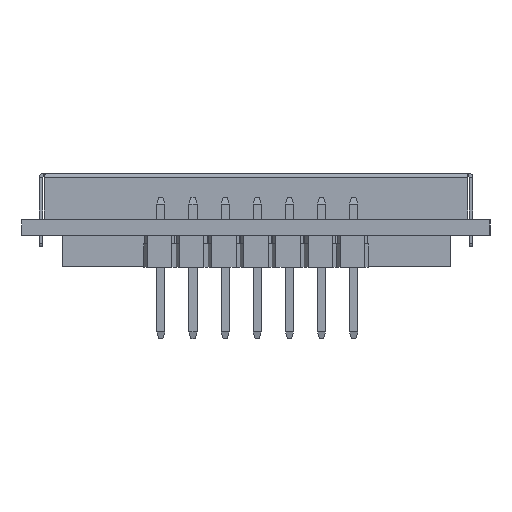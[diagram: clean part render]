
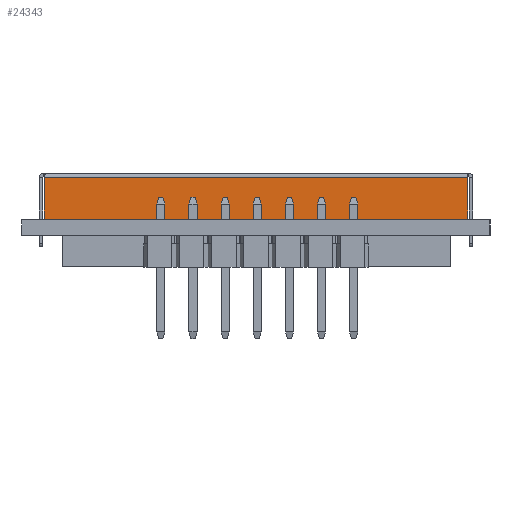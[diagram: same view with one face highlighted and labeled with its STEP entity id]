
A CAD part, left-side view. The second image highlights one B-rep face of the part: STEP entity #24343.
In plain terms, the highlighted planar face has unit normal (-1, 0, 0).
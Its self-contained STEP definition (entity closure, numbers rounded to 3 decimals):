
#19330 = CYLINDRICAL_SURFACE('',#19331,0.33);
#19331 = AXIS2_PLACEMENT_3D('',#19332,#19333,#19334);
#19332 = CARTESIAN_POINT('',(-24.82,16.75,-0.33));
#19333 = DIRECTION('',(0.,1.,0.));
#19334 = DIRECTION('',(-1.,0.,0.));
#23777 = VERTEX_POINT('',#23778);
#23778 = CARTESIAN_POINT('',(-25.15,-16.75,-0.33));
#23792 = PLANE('',#23793);
#23793 = AXIS2_PLACEMENT_3D('',#23794,#23795,#23796);
#23794 = CARTESIAN_POINT('',(-25.15,-16.75,-0.3));
#23795 = DIRECTION('',(0.,1.,0.));
#23796 = DIRECTION('',(0.,0.,1.));
#23898 = VERTEX_POINT('',#23899);
#23899 = CARTESIAN_POINT('',(-25.15,16.75,-0.33));
#24005 = PLANE('',#24006);
#24006 = AXIS2_PLACEMENT_3D('',#24007,#24008,#24009);
#24007 = CARTESIAN_POINT('',(-25.15,16.75,-3.8));
#24008 = DIRECTION('',(0.,-1.,0.));
#24009 = DIRECTION('',(0.,0.,-1.));
#24094 = EDGE_CURVE('',#23898,#23777,#24095,.T.);
#24095 = SURFACE_CURVE('',#24096,(#24100,#24129),.PCURVE_S1.);
#24096 = LINE('',#24097,#24098);
#24097 = CARTESIAN_POINT('',(-25.15,0.,-0.33));
#24098 = VECTOR('',#24099,1.);
#24099 = DIRECTION('',(0.,-1.,0.));
#24100 = PCURVE('',#19330,#24101);
#24101 = DEFINITIONAL_REPRESENTATION('',(#24102),#24128);
#24102 = B_SPLINE_CURVE_WITH_KNOTS('',3,(#24103,#24104,#24105,#24106,
    #24107,#24108,#24109,#24110,#24111,#24112,#24113,#24114,#24115,
    #24116,#24117,#24118,#24119,#24120,#24121,#24122,#24123,#24124,
    #24125,#24126,#24127),.UNSPECIFIED.,.F.,.F.,(4,1,1,1,1,1,1,1,1,1,1,1
    ,1,1,1,1,1,1,1,1,1,1,4),(-16.75,-15.227,-13.705,
    -12.182,-10.659,-9.136,-7.614,
    -6.091,-4.568,-3.045,-1.523,
    0.,1.523,3.045,4.568,
    6.091,7.614,9.136,10.659,
    12.182,13.705,15.227,16.75),
  .UNSPECIFIED.);
#24103 = CARTESIAN_POINT('',(0.,0.));
#24104 = CARTESIAN_POINT('',(0.,-0.508));
#24105 = CARTESIAN_POINT('',(0.,-1.523));
#24106 = CARTESIAN_POINT('',(0.,-3.045));
#24107 = CARTESIAN_POINT('',(0.,-4.568));
#24108 = CARTESIAN_POINT('',(0.,-6.091));
#24109 = CARTESIAN_POINT('',(0.,-7.614));
#24110 = CARTESIAN_POINT('',(0.,-9.136));
#24111 = CARTESIAN_POINT('',(0.,-10.659));
#24112 = CARTESIAN_POINT('',(0.,-12.182));
#24113 = CARTESIAN_POINT('',(0.,-13.705));
#24114 = CARTESIAN_POINT('',(0.,-15.227));
#24115 = CARTESIAN_POINT('',(0.,-16.75));
#24116 = CARTESIAN_POINT('',(0.,-18.273));
#24117 = CARTESIAN_POINT('',(0.,-19.795));
#24118 = CARTESIAN_POINT('',(0.,-21.318));
#24119 = CARTESIAN_POINT('',(0.,-22.841));
#24120 = CARTESIAN_POINT('',(0.,-24.364));
#24121 = CARTESIAN_POINT('',(0.,-25.886));
#24122 = CARTESIAN_POINT('',(0.,-27.409));
#24123 = CARTESIAN_POINT('',(0.,-28.932));
#24124 = CARTESIAN_POINT('',(0.,-30.455));
#24125 = CARTESIAN_POINT('',(0.,-31.977));
#24126 = CARTESIAN_POINT('',(0.,-32.992));
#24127 = CARTESIAN_POINT('',(0.,-33.5));
#24128 = ( GEOMETRIC_REPRESENTATION_CONTEXT(2) 
PARAMETRIC_REPRESENTATION_CONTEXT() REPRESENTATION_CONTEXT('2D SPACE',''
  ) );
#24129 = PCURVE('',#24130,#24135);
#24130 = PLANE('',#24131);
#24131 = AXIS2_PLACEMENT_3D('',#24132,#24133,#24134);
#24132 = CARTESIAN_POINT('',(-25.15,0.,0.));
#24133 = DIRECTION('',(1.,0.,0.));
#24134 = DIRECTION('',(0.,0.,-1.));
#24135 = DEFINITIONAL_REPRESENTATION('',(#24136),#24140);
#24136 = LINE('',#24137,#24138);
#24137 = CARTESIAN_POINT('',(0.33,0.));
#24138 = VECTOR('',#24139,1.);
#24139 = DIRECTION('',(0.,-1.));
#24140 = ( GEOMETRIC_REPRESENTATION_CONTEXT(2) 
PARAMETRIC_REPRESENTATION_CONTEXT() REPRESENTATION_CONTEXT('2D SPACE',''
  ) );
#24225 = VERTEX_POINT('',#24226);
#24226 = CARTESIAN_POINT('',(-25.15,16.75,-3.8));
#24240 = PLANE('',#24241);
#24241 = AXIS2_PLACEMENT_3D('',#24242,#24243,#24244);
#24242 = CARTESIAN_POINT('',(-25.15,-16.75,-3.8));
#24243 = DIRECTION('',(0.,0.,1.));
#24244 = DIRECTION('',(1.,0.,0.));
#24252 = EDGE_CURVE('',#23898,#24225,#24253,.T.);
#24253 = SURFACE_CURVE('',#24254,(#24258,#24265),.PCURVE_S1.);
#24254 = LINE('',#24255,#24256);
#24255 = CARTESIAN_POINT('',(-25.15,16.75,-3.8));
#24256 = VECTOR('',#24257,1.);
#24257 = DIRECTION('',(0.,0.,-1.));
#24258 = PCURVE('',#24005,#24259);
#24259 = DEFINITIONAL_REPRESENTATION('',(#24260),#24264);
#24260 = LINE('',#24261,#24262);
#24261 = CARTESIAN_POINT('',(0.,0.));
#24262 = VECTOR('',#24263,1.);
#24263 = DIRECTION('',(1.,0.));
#24264 = ( GEOMETRIC_REPRESENTATION_CONTEXT(2) 
PARAMETRIC_REPRESENTATION_CONTEXT() REPRESENTATION_CONTEXT('2D SPACE',''
  ) );
#24265 = PCURVE('',#24130,#24266);
#24266 = DEFINITIONAL_REPRESENTATION('',(#24267),#24271);
#24267 = LINE('',#24268,#24269);
#24268 = CARTESIAN_POINT('',(3.8,16.75));
#24269 = VECTOR('',#24270,1.);
#24270 = DIRECTION('',(1.,0.));
#24271 = ( GEOMETRIC_REPRESENTATION_CONTEXT(2) 
PARAMETRIC_REPRESENTATION_CONTEXT() REPRESENTATION_CONTEXT('2D SPACE',''
  ) );
#24277 = EDGE_CURVE('',#24278,#23777,#24280,.T.);
#24278 = VERTEX_POINT('',#24279);
#24279 = CARTESIAN_POINT('',(-25.15,-16.75,-3.8));
#24280 = SURFACE_CURVE('',#24281,(#24285,#24292),.PCURVE_S1.);
#24281 = LINE('',#24282,#24283);
#24282 = CARTESIAN_POINT('',(-25.15,-16.75,-0.3));
#24283 = VECTOR('',#24284,1.);
#24284 = DIRECTION('',(0.,0.,1.));
#24285 = PCURVE('',#23792,#24286);
#24286 = DEFINITIONAL_REPRESENTATION('',(#24287),#24291);
#24287 = LINE('',#24288,#24289);
#24288 = CARTESIAN_POINT('',(0.,0.));
#24289 = VECTOR('',#24290,1.);
#24290 = DIRECTION('',(1.,0.));
#24291 = ( GEOMETRIC_REPRESENTATION_CONTEXT(2) 
PARAMETRIC_REPRESENTATION_CONTEXT() REPRESENTATION_CONTEXT('2D SPACE',''
  ) );
#24292 = PCURVE('',#24130,#24293);
#24293 = DEFINITIONAL_REPRESENTATION('',(#24294),#24298);
#24294 = LINE('',#24295,#24296);
#24295 = CARTESIAN_POINT('',(0.3,-16.75));
#24296 = VECTOR('',#24297,1.);
#24297 = DIRECTION('',(-1.,0.));
#24298 = ( GEOMETRIC_REPRESENTATION_CONTEXT(2) 
PARAMETRIC_REPRESENTATION_CONTEXT() REPRESENTATION_CONTEXT('2D SPACE',''
  ) );
#24343 = ADVANCED_FACE('',(#24344),#24130,.F.);
#24344 = FACE_BOUND('',#24345,.T.);
#24345 = EDGE_LOOP('',(#24346,#24347,#24348,#24369));
#24346 = ORIENTED_EDGE('',*,*,#24094,.F.);
#24347 = ORIENTED_EDGE('',*,*,#24252,.T.);
#24348 = ORIENTED_EDGE('',*,*,#24349,.T.);
#24349 = EDGE_CURVE('',#24225,#24278,#24350,.T.);
#24350 = SURFACE_CURVE('',#24351,(#24355,#24362),.PCURVE_S1.);
#24351 = LINE('',#24352,#24353);
#24352 = CARTESIAN_POINT('',(-25.15,-16.75,-3.8));
#24353 = VECTOR('',#24354,1.);
#24354 = DIRECTION('',(0.,-1.,0.));
#24355 = PCURVE('',#24130,#24356);
#24356 = DEFINITIONAL_REPRESENTATION('',(#24357),#24361);
#24357 = LINE('',#24358,#24359);
#24358 = CARTESIAN_POINT('',(3.8,-16.75));
#24359 = VECTOR('',#24360,1.);
#24360 = DIRECTION('',(0.,-1.));
#24361 = ( GEOMETRIC_REPRESENTATION_CONTEXT(2) 
PARAMETRIC_REPRESENTATION_CONTEXT() REPRESENTATION_CONTEXT('2D SPACE',''
  ) );
#24362 = PCURVE('',#24240,#24363);
#24363 = DEFINITIONAL_REPRESENTATION('',(#24364),#24368);
#24364 = LINE('',#24365,#24366);
#24365 = CARTESIAN_POINT('',(0.,0.));
#24366 = VECTOR('',#24367,1.);
#24367 = DIRECTION('',(0.,-1.));
#24368 = ( GEOMETRIC_REPRESENTATION_CONTEXT(2) 
PARAMETRIC_REPRESENTATION_CONTEXT() REPRESENTATION_CONTEXT('2D SPACE',''
  ) );
#24369 = ORIENTED_EDGE('',*,*,#24277,.T.);
